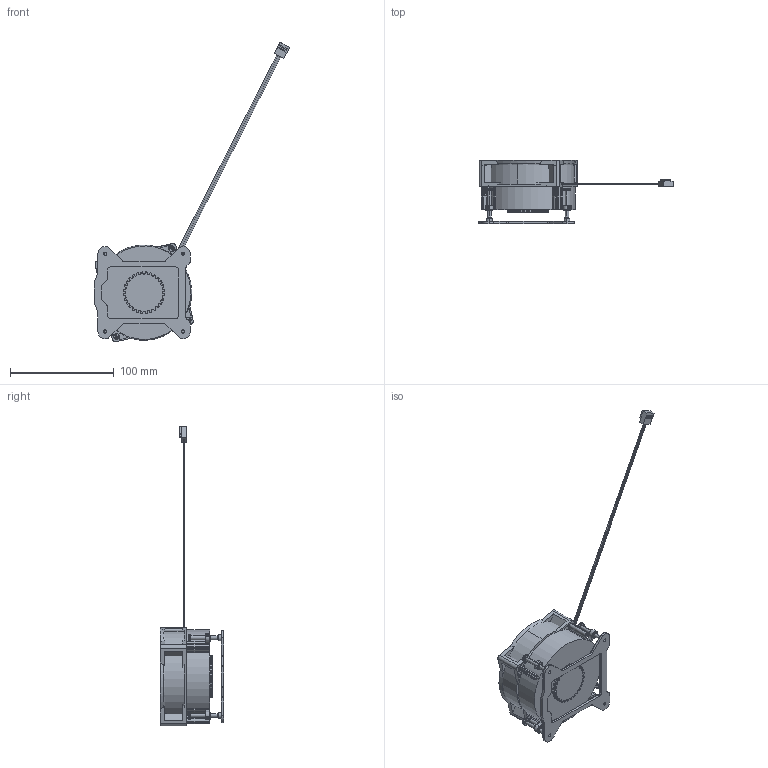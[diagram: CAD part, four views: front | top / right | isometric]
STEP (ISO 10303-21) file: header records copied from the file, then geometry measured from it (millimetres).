
FILE_DESCRIPTION((''),'2;1');
FILE_NAME('RG3219-50R-002_ME_ASM','2022-11-21T',('User'),(''),'PRO/ENGINEER BY PARAMETRIC TECHNOLOGY CORPORATION, 2017170','PRO/ENGINEER BY PARAMETRIC TECHNOLOGY CORPORATION, 2017170','');
FILE_SCHEMA(('CONFIG_CONTROL_DESIGN'));
Length unit declared in the file: millimetre
Products named in the file (18): D90X25_AL_SINK__3; D90_25H_AL_ASSY_ASM_1_ASM; DEAKTOP_SCREW_D7_30_8L_1; E-RING_1; DESKTOP_SCREW_ASSY_ASM_1_ASM; DESKTOP_D90_25H_AL_ASSY_ASM_1_ASM; PRT0004_1_1; 8025FRAME_YANGXIN_5_1_2; ASM0001_ASM_1_ASM_ASM_ASM_1_ASM_ASM; ASM0003_ASM_ASM_1_ASM_1_ASM; 4P-PLUGZ_1_1; FAN_SCREW_T3_32L_1; LABEL_R30_1_1; F128025BUAF5Y8AR_ASM_1_ASM; 850-BP1156_1; MYLER_1; 850-BP1156_ASSY__ASM_1_ASM; RG3219-50R-002_ME_ASM
Assembly tree (23 placements, depth 5):
  RG3219-50R-002_ME_ASM
    DESKTOP_D90_25H_AL_ASSY_ASM_1_ASM
      D90_25H_AL_ASSY_ASM_1_ASM
        D90X25_AL_SINK__3
      DESKTOP_SCREW_ASSY_ASM_1_ASM  x4
        DEAKTOP_SCREW_D7_30_8L_1
        E-RING_1
    F128025BUAF5Y8AR_ASM_1_ASM
      ASM0003_ASM_ASM_1_ASM_1_ASM
        ASM0001_ASM_1_ASM_ASM_ASM_1_ASM_ASM
          PRT0004_1_1
          8025FRAME_YANGXIN_5_1_2
      4P-PLUGZ_1_1
      FAN_SCREW_T3_32L_1  x4
      LABEL_R30_1_1
    850-BP1156_ASSY__ASM_1_ASM
      850-BP1156_1
      MYLER_1
Bounding box: 188.32 x 61 x 288.93 mm (x, y, z)
Volume: 303798.5 mm3; surface area: 87554.9 mm2
Topology: 19 solids, 19 shells, 2927 faces, 8444 edges, 5650 vertices
Faces by surface type: plane 1839, cylinder 801, extrusion 99, bspline 89, torus 54, cone 44, sphere 1
Entity records: 73088 total; most frequent: CARTESIAN_POINT 20824, ORIENTED_EDGE 11292, DIRECTION 10218, EDGE_CURVE 5646, VECTOR 4014, LINE 3918, VERTEX_POINT 3802, AXIS2_PLACEMENT_3D 3102
